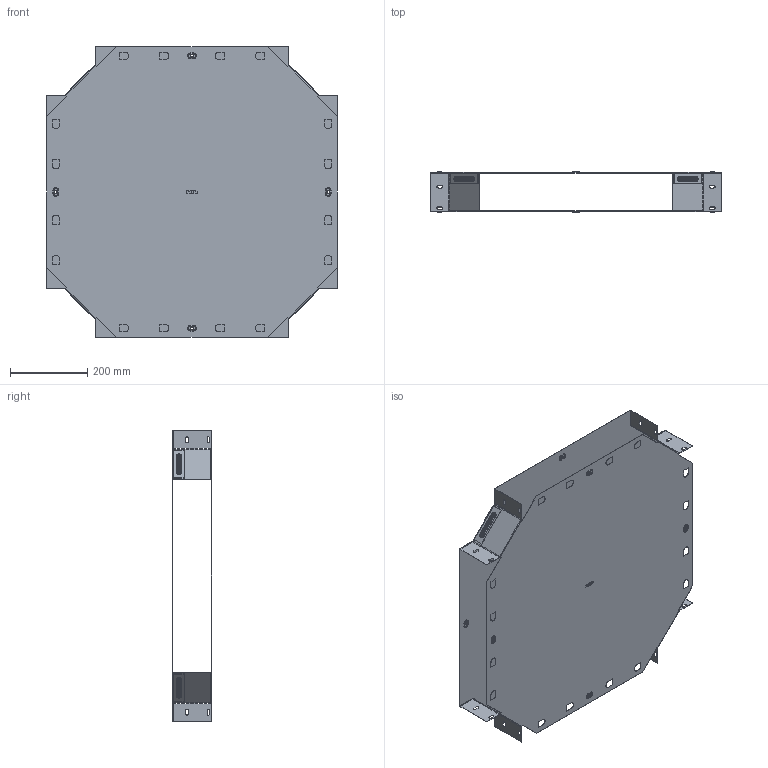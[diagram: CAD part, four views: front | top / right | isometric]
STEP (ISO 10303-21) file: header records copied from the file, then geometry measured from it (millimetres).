
FILE_DESCRIPTION (( 'STEP AP214' ), '1' );
FILE_NAME ('x10050008_捘.STEP', '2019-06-10T07:53:35', ( '砐錪賧瘔蠈錪 Windows' ), ( '' ), 'SwSTEP 2.0', 'SolidWorks 2018', '' );
FILE_SCHEMA (( 'AUTOMOTIVE_DESIGN' ));
Length unit declared in the file: millimetre
Products named in the file (1): x10050008_捘
Bounding box: 755.01 x 103.8 x 755.01 mm (x, y, z)
Volume: 886613.9 mm3; surface area: 2225159.9 mm2
Topology: 2 solids, 2 shells, 1112 faces, 3384 edges, 2208 vertices
Faces by surface type: plane 598, cylinder 368, torus 128, bspline 18
Entity records: 39063 total; most frequent: CARTESIAN_POINT 7663, ORIENTED_EDGE 6768, DIRECTION 6466, EDGE_CURVE 3384, LINE 2420, VECTOR 2420, VERTEX_POINT 2208, AXIS2_PLACEMENT_3D 2023
